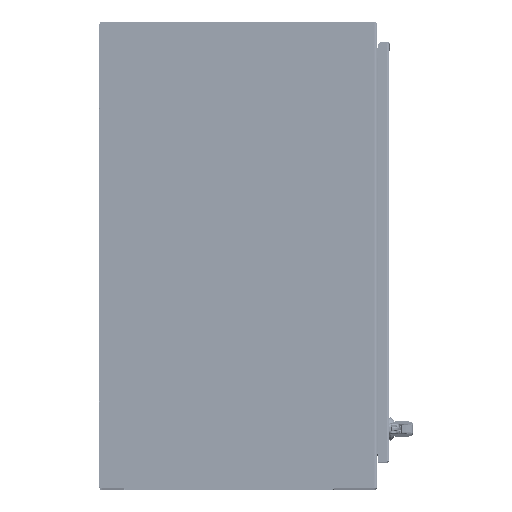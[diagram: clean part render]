
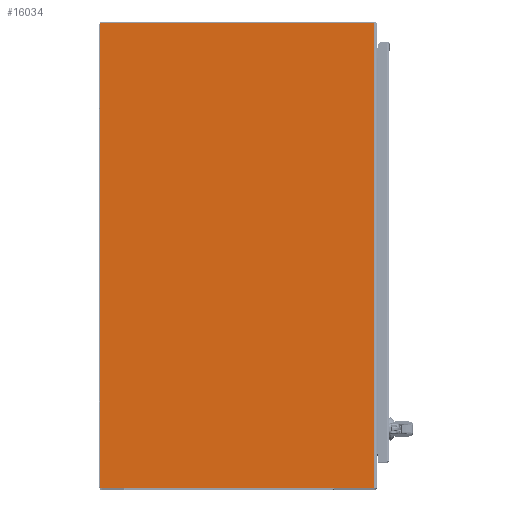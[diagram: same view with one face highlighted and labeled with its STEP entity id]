
A CAD part, top view. The second image highlights one B-rep face of the part: STEP entity #16034.
In plain terms, the highlighted planar face has unit normal (0, 0, 1) as drawn and (0, 1, 0) by its records, which use the part's own axes.
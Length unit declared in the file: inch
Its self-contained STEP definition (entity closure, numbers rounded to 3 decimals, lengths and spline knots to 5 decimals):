
#15249=CARTESIAN_POINT('',(-23.888,0.,-20.013));
#15250=DIRECTION('',(0.,1.,0.));
#15251=DIRECTION('',(0.,0.,-1.));
#15252=AXIS2_PLACEMENT_3D('',#15249,#15250,#15251);
#15257=CARTESIAN_POINT('',(-23.888,0.,20.013));
#15258=DIRECTION('',(0.,1.,0.));
#15259=DIRECTION('',(-1.,0.,0.));
#15260=AXIS2_PLACEMENT_3D('',#15257,#15258,#15259);
#15272=DIRECTION('',(0.,0.,-1.));
#15273=VECTOR('',#15272,40.026);
#15274=CARTESIAN_POINT('',(-23.948,0.,20.013));
#15275=LINE('',#15274,#15273);
#15300=DIRECTION('',(-1.,0.,0.));
#15301=VECTOR('',#15300,23.6415);
#15302=CARTESIAN_POINT('',(-0.2465,0.,20.073));
#15303=LINE('',#15302,#15301);
#15343=DIRECTION('',(0.,0.,1.));
#15344=VECTOR('',#15343,40.146);
#15345=CARTESIAN_POINT('',(-0.2465,0.,-20.073));
#15346=LINE('',#15345,#15344);
#15451=DIRECTION('',(-1.,0.,0.));
#15452=VECTOR('',#15451,23.6415);
#15453=CARTESIAN_POINT('',(-0.2465,0.,-20.073));
#15454=LINE('',#15453,#15452);
#15919=CARTESIAN_POINT('',(-0.2465,0.,20.073));
#15920=VERTEX_POINT('',#15919);
#15921=CARTESIAN_POINT('',(-0.2465,0.,-20.073));
#15922=VERTEX_POINT('',#15921);
#15947=CARTESIAN_POINT('',(-23.888,0.,-20.073));
#15948=CARTESIAN_POINT('',(-23.948,0.,-20.013));
#15949=VERTEX_POINT('',#15947);
#15950=VERTEX_POINT('',#15948);
#15955=CARTESIAN_POINT('',(-23.948,0.,20.013));
#15956=CARTESIAN_POINT('',(-23.888,0.,20.073));
#15957=VERTEX_POINT('',#15955);
#15958=VERTEX_POINT('',#15956);
#16015=CARTESIAN_POINT('',(0.,0.,20.073));
#16016=DIRECTION('',(0.,1.,0.));
#16017=DIRECTION('',(-1.,0.,0.));
#16018=AXIS2_PLACEMENT_3D('',#16015,#16016,#16017);
#16019=PLANE('',#16018);
#16021=ORIENTED_EDGE('',*,*,#16020,.F.);
#16023=ORIENTED_EDGE('',*,*,#16022,.F.);
#16025=ORIENTED_EDGE('',*,*,#16024,.T.);
#16027=ORIENTED_EDGE('',*,*,#16026,.T.);
#16029=ORIENTED_EDGE('',*,*,#16028,.F.);
#16031=ORIENTED_EDGE('',*,*,#16030,.T.);
#16032=EDGE_LOOP('',(#16021,#16023,#16025,#16027,#16029,#16031));
#16033=FACE_OUTER_BOUND('',#16032,.F.);
#15253=CIRCLE('',#15252,0.06);
#15261=CIRCLE('',#15260,0.06);
#16020=EDGE_CURVE('',#15949,#15950,#15253,.T.);
#16022=EDGE_CURVE('',#15922,#15949,#15454,.T.);
#16024=EDGE_CURVE('',#15922,#15920,#15346,.T.);
#16026=EDGE_CURVE('',#15920,#15958,#15303,.T.);
#16028=EDGE_CURVE('',#15957,#15958,#15261,.T.);
#16030=EDGE_CURVE('',#15957,#15950,#15275,.T.);
#16034=ADVANCED_FACE('',(#16033),#16019,.T.);
